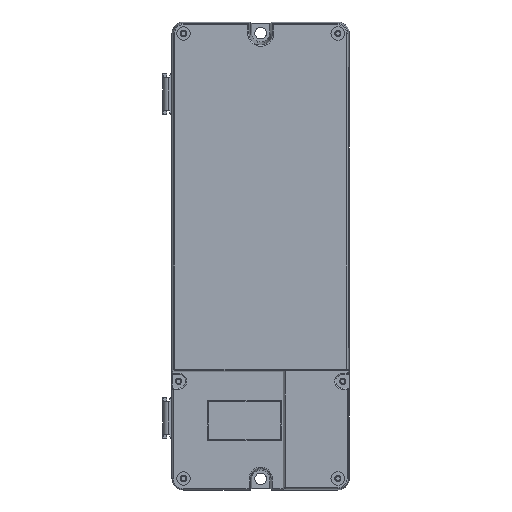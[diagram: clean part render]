
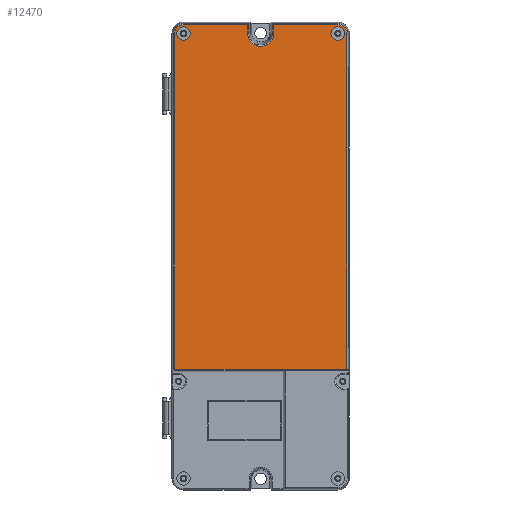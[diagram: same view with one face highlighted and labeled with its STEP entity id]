
A CAD part, front view. The second image highlights one B-rep face of the part: STEP entity #12470.
In plain terms, the highlighted planar face has unit normal (0, -1, 0).
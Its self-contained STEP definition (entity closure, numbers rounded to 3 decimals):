
#8472=CARTESIAN_POINT('',(34.8,-52.,100.3));
#8473=DIRECTION('',(0.,1.,0.));
#8474=DIRECTION('',(1.,0.,0.));
#8475=AXIS2_PLACEMENT_3D('',#8472,#8473,#8474);
#8480=CARTESIAN_POINT('',(34.8,-52.,100.3));
#8481=DIRECTION('',(0.,1.,0.));
#8482=DIRECTION('',(-1.,0.,0.));
#8483=AXIS2_PLACEMENT_3D('',#8480,#8481,#8482);
#8488=CARTESIAN_POINT('',(-34.8,-52.,100.3));
#8489=DIRECTION('',(0.,1.,0.));
#8490=DIRECTION('',(1.,0.,0.));
#8491=AXIS2_PLACEMENT_3D('',#8488,#8489,#8490);
#8496=CARTESIAN_POINT('',(-34.8,-52.,100.3));
#8497=DIRECTION('',(0.,1.,0.));
#8498=DIRECTION('',(-1.,0.,0.));
#8499=AXIS2_PLACEMENT_3D('',#8496,#8497,#8498);
#10931=DIRECTION('',(0.,0.,1.));
#10932=VECTOR('',#10931,151.34);
#10933=CARTESIAN_POINT('',(-38.74,-52.,-51.04));
#10934=LINE('',#10933,#10932);
#10954=CARTESIAN_POINT('',(-34.8,-52.,100.3));
#10955=DIRECTION('',(0.,1.,0.));
#10956=DIRECTION('',(-1.,0.,0.));
#10957=AXIS2_PLACEMENT_3D('',#10954,#10955,#10956);
#11013=DIRECTION('',(0.,0.,1.));
#11014=VECTOR('',#11013,3.74);
#11015=CARTESIAN_POINT('',(-5.923,-52.,100.5));
#11016=LINE('',#11015,#11014);
#11020=CARTESIAN_POINT('',(0.,-52.,100.5));
#11021=DIRECTION('',(0.,1.,0.));
#11022=DIRECTION('',(1.,0.,0.));
#11023=AXIS2_PLACEMENT_3D('',#11020,#11021,#11022);
#11051=DIRECTION('',(0.,0.,-1.));
#11052=VECTOR('',#11051,3.74);
#11053=CARTESIAN_POINT('',(5.923,-52.,104.24));
#11054=LINE('',#11053,#11052);
#11072=DIRECTION('',(1.,0.,0.));
#11073=VECTOR('',#11072,28.877);
#11074=CARTESIAN_POINT('',(5.923,-52.,104.24));
#11075=LINE('',#11074,#11073);
#11099=CARTESIAN_POINT('',(34.8,-52.,100.3));
#11100=DIRECTION('',(0.,1.,0.));
#11101=DIRECTION('',(0.,0.,1.));
#11102=AXIS2_PLACEMENT_3D('',#11099,#11100,#11101);
#11122=DIRECTION('',(0.,0.,-1.));
#11123=VECTOR('',#11122,151.34);
#11124=CARTESIAN_POINT('',(38.74,-52.,100.3));
#11125=LINE('',#11124,#11123);
#11186=DIRECTION('',(-1.,0.,0.));
#11187=VECTOR('',#11186,77.481);
#11188=CARTESIAN_POINT('',(38.74,-52.,-51.04));
#11189=LINE('',#11188,#11187);
#11216=DIRECTION('',(1.,0.,0.));
#11217=VECTOR('',#11216,28.877);
#11218=CARTESIAN_POINT('',(-34.8,-52.,104.24));
#11219=LINE('',#11218,#11217);
#11995=CARTESIAN_POINT('',(38.74,-52.,-51.04));
#11996=CARTESIAN_POINT('',(-38.74,-52.,-51.04));
#11997=VERTEX_POINT('',#11995);
#11998=VERTEX_POINT('',#11996);
#12089=CARTESIAN_POINT('',(37.9,-52.,100.3));
#12090=CARTESIAN_POINT('',(31.7,-52.,100.3));
#12091=VERTEX_POINT('',#12089);
#12092=VERTEX_POINT('',#12090);
#12093=CARTESIAN_POINT('',(-31.7,-52.,100.3));
#12094=CARTESIAN_POINT('',(-37.9,-52.,100.3));
#12095=VERTEX_POINT('',#12093);
#12096=VERTEX_POINT('',#12094);
#12271=CARTESIAN_POINT('',(5.923,-52.,104.24));
#12272=CARTESIAN_POINT('',(34.8,-52.,104.24));
#12273=VERTEX_POINT('',#12271);
#12274=VERTEX_POINT('',#12272);
#12275=CARTESIAN_POINT('',(38.74,-52.,100.3));
#12276=VERTEX_POINT('',#12275);
#12281=CARTESIAN_POINT('',(-5.923,-52.,100.5));
#12282=CARTESIAN_POINT('',(-5.923,-52.,104.24));
#12283=VERTEX_POINT('',#12281);
#12284=VERTEX_POINT('',#12282);
#12285=CARTESIAN_POINT('',(5.923,-52.,100.5));
#12286=VERTEX_POINT('',#12285);
#12289=CARTESIAN_POINT('',(-34.8,-52.,104.24));
#12290=VERTEX_POINT('',#12289);
#12291=CARTESIAN_POINT('',(-38.74,-52.,100.3));
#12292=VERTEX_POINT('',#12291);
#12431=CARTESIAN_POINT('',(0.,-52.,0.));
#12432=DIRECTION('',(0.,-1.,0.));
#12433=DIRECTION('',(0.,0.,1.));
#12434=AXIS2_PLACEMENT_3D('',#12431,#12432,#12433);
#12435=PLANE('',#12434);
#12437=ORIENTED_EDGE('',*,*,#12436,.T.);
#12439=ORIENTED_EDGE('',*,*,#12438,.T.);
#12441=ORIENTED_EDGE('',*,*,#12440,.T.);
#12443=ORIENTED_EDGE('',*,*,#12442,.T.);
#12445=ORIENTED_EDGE('',*,*,#12444,.F.);
#12447=ORIENTED_EDGE('',*,*,#12446,.F.);
#12449=ORIENTED_EDGE('',*,*,#12448,.F.);
#12451=ORIENTED_EDGE('',*,*,#12450,.T.);
#12453=ORIENTED_EDGE('',*,*,#12452,.T.);
#12455=ORIENTED_EDGE('',*,*,#12454,.T.);
#12456=EDGE_LOOP('',(#12437,#12439,#12441,#12443,#12445,#12447,#12449,#12451,
#12453,#12455));
#12457=FACE_OUTER_BOUND('',#12456,.F.);
#12459=ORIENTED_EDGE('',*,*,#12458,.F.);
#12461=ORIENTED_EDGE('',*,*,#12460,.F.);
#12462=EDGE_LOOP('',(#12459,#12461));
#12463=FACE_BOUND('',#12462,.F.);
#12465=ORIENTED_EDGE('',*,*,#12464,.F.);
#12467=ORIENTED_EDGE('',*,*,#12466,.F.);
#12468=EDGE_LOOP('',(#12465,#12467));
#12469=FACE_BOUND('',#12468,.F.);
#12470=ADVANCED_FACE('',(#12457,#12463,#12469),#12435,.T.);
#8476=CIRCLE('',#8475,3.1);
#8484=CIRCLE('',#8483,3.1);
#8492=CIRCLE('',#8491,3.1);
#8500=CIRCLE('',#8499,3.1);
#10958=CIRCLE('',#10957,3.94);
#11024=CIRCLE('',#11023,5.923);
#11103=CIRCLE('',#11102,3.94);
#12436=EDGE_CURVE('',#11997,#11998,#11189,.T.);
#12438=EDGE_CURVE('',#11998,#12292,#10934,.T.);
#12440=EDGE_CURVE('',#12292,#12290,#10958,.T.);
#12442=EDGE_CURVE('',#12290,#12284,#11219,.T.);
#12444=EDGE_CURVE('',#12283,#12284,#11016,.T.);
#12446=EDGE_CURVE('',#12286,#12283,#11024,.T.);
#12448=EDGE_CURVE('',#12273,#12286,#11054,.T.);
#12450=EDGE_CURVE('',#12273,#12274,#11075,.T.);
#12452=EDGE_CURVE('',#12274,#12276,#11103,.T.);
#12454=EDGE_CURVE('',#12276,#11997,#11125,.T.);
#12458=EDGE_CURVE('',#12091,#12092,#8476,.T.);
#12460=EDGE_CURVE('',#12092,#12091,#8484,.T.);
#12464=EDGE_CURVE('',#12095,#12096,#8492,.T.);
#12466=EDGE_CURVE('',#12096,#12095,#8500,.T.);
